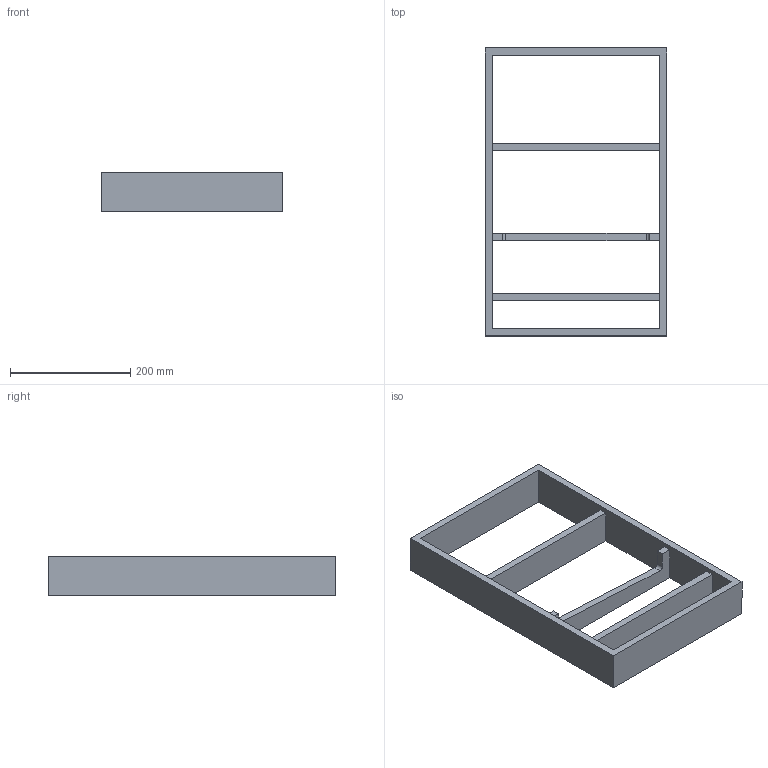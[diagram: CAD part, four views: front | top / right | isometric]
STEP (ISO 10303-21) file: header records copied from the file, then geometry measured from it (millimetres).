
FILE_DESCRIPTION (( 'STEP AP214' ), '1' );
FILE_NAME ('Vario Messer_Modul_H65_NL500_B400_19mm_Alu_Buche.step', '2010-10-07T06:11:47', ( 'grass' ), ( '' ), 'SwSTEP 2.0', 'SolidWorks 2010', '' );
FILE_SCHEMA (( 'AUTOMOTIVE_DESIGN' ));
Length unit declared in the file: millimetre
Products named in the file (1): Vario Messer_Modul_H65_NL500_B400_19mm_Alu_Buche
Bounding box: 302 x 479 x 65 mm (x, y, z)
Volume: 1675377.5 mm3; surface area: 332053.3 mm2
Topology: 1 solids, 1 shells, 25 faces, 78 edges, 52 vertices
Faces by surface type: plane 23, cylinder 2
Entity records: 906 total; most frequent: ORIENTED_EDGE 156, CARTESIAN_POINT 156, DIRECTION 134, EDGE_CURVE 78, LINE 74, VECTOR 74, VERTEX_POINT 52, EDGE_LOOP 30
